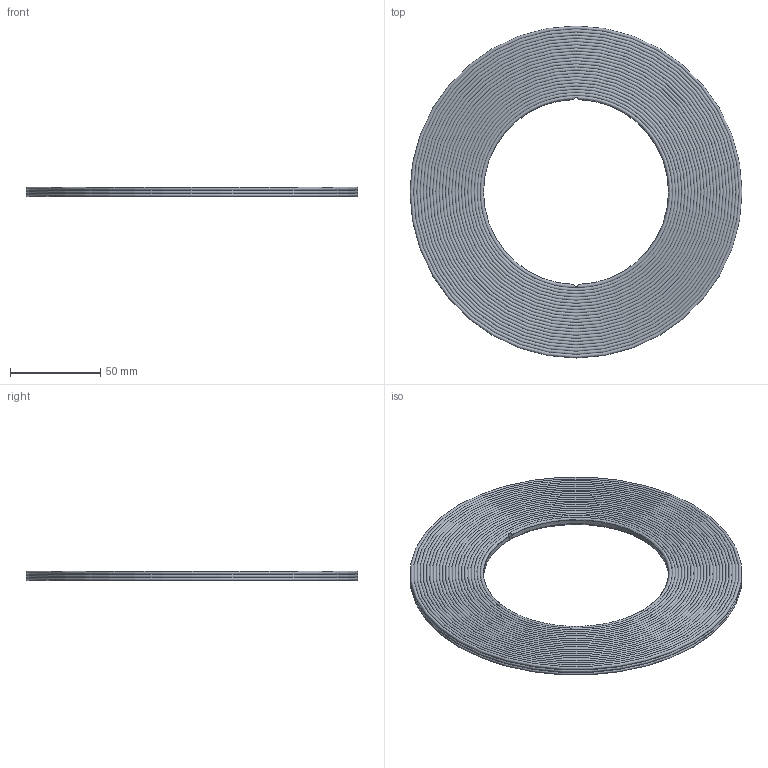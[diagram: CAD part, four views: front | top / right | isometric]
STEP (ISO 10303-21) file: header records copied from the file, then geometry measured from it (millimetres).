
FILE_DESCRIPTION(/* description */ ('Alibre Inc.'),/* implementation_level */ '2;1');
FILE_NAME(/* name */ 'export-66FD84E4-1EE7-44B2-98BA-24FACC6FEE95',/* time_stamp */ '2026-02-03T10:41:27+00:00',/* author */ (''),/* organization */ (''),/* preprocessor_version */ 'ST-DEVELOPER v17',/* originating_system */ 'Alibre',/* authorisation */ '');
FILE_SCHEMA (('CONFIG_CONTROL_DESIGN'));
Length unit declared in the file: millimetre
Bounding box: 183.49 x 183.49 x 5.27 mm (x, y, z)
Volume: 90775 mm3; surface area: 51024.7 mm2
Topology: 1 solids, 1 shells, 72 faces, 123 edges, 81 vertices
Faces by surface type: plane 32, torus 26, cylinder 13, cone 1
Full cylindrical faces by diameter (mm): 4.5 x6, 182.48 x3
Entity records: 1507 total; most frequent: CARTESIAN_POINT 293, DIRECTION 203, ORIENTED_EDGE 166, EDGE_LOOP 138, FACE_BOUND 138, AXIS2_PLACEMENT_3D 116, EDGE_CURVE 83, VERTEX_POINT 77
